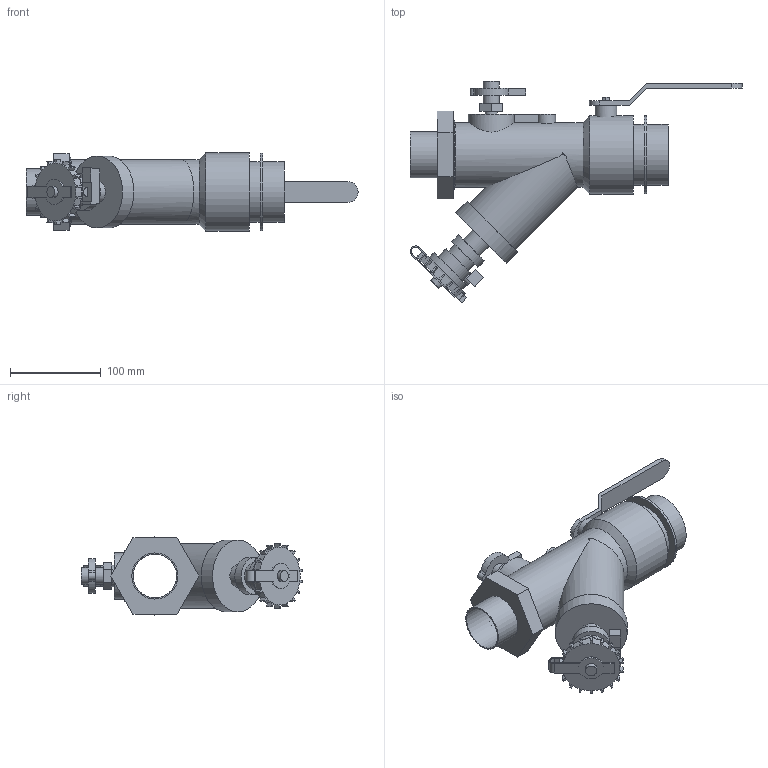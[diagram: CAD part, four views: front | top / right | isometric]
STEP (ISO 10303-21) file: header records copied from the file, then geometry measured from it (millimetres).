
FILE_DESCRIPTION(/* description */ ('VIC Y-STRAINER/BALL SERIES 78Y (FPT)','CAx-IF Rec.Pracs.---Representation and Presentation of Product Manufacturing Information (PMI)---4.0---2014-10-13'),/* implementation_level */ '2;1');
FILE_NAME(/* name */ 'C:\Users\kkamble\Desktop\extraction\OldVersions\Victaulic_IPS_Valve Ball Y Strainer Combination_Series 78Y (FPT)\Victaulic_IPS_Valve Ball Y Strainer Combination_Series 78Y (FPT)_02.0x01.5 (50x40).stp',/* time_stamp */ '2020-10-19T10:39:50+05:00',/* author */ ('kkamble'),/* organization */ ('Victaulic'),/* preprocessor_version */ 'ST-DEVELOPER v17.2',/* originating_system */ 'Autodesk Inventor 2019',/* authorisation */ '');
FILE_SCHEMA (('AP242_MANAGED_MODEL_BASED_3D_ENGINEERING_MIM_LF { 1 0 10303 442 1 1 4 }'));
Length unit declared in the file: inch
Products named in the file (1): 78Y-2.0x1.5
Bounding box: 365.76 x 243.49 x 86.11 mm (x, y, z)
Volume: 752180.9 mm3; surface area: 226813.5 mm2
Topology: 4 solids, 5 shells, 218 faces, 585 edges, 393 vertices
Faces by surface type: plane 148, cylinder 68, cone 2
Full cylindrical faces by diameter (mm): 10.16 x1, 12.565 x1, 13.462 x3, 16.002 x1, 17.78 x3, 23.876 x1, 25.4 x1, 27.94 x1, 30.48 x1, 38.1 x1, 40.64 x1, 48.26 x2, 50.8 x2, 60.325 x2, 63.5 x1, 67.056 x2, 71.374 x1, 71.501 x1, 76.2 x1, 79.248 x1, 85.852 x1, 86.106 x1
Entity records: 7957 total; most frequent: CARTESIAN_POINT 2086, DIRECTION 1211, ORIENTED_EDGE 1170, EDGE_CURVE 585, AXIS2_PLACEMENT_3D 433, VERTEX_POINT 393, LINE 345, VECTOR 345
